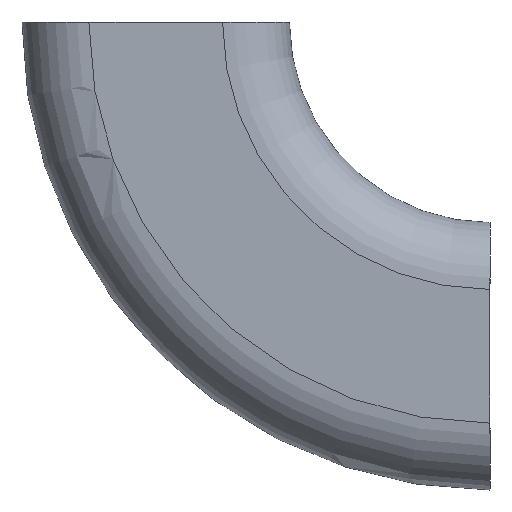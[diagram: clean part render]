
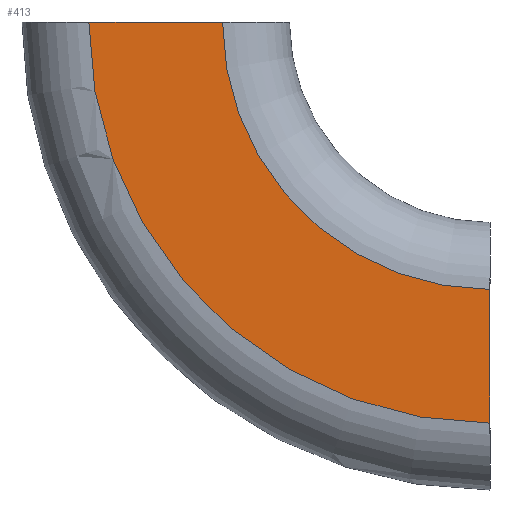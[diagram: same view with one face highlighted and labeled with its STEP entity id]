
A CAD part, left-side view. The second image highlights one B-rep face of the part: STEP entity #413.
In plain terms, the highlighted planar face has unit normal (-1, 0, 0).
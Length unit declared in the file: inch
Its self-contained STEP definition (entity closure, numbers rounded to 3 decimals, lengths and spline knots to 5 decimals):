
#345=CARTESIAN_POINT('',(-0.5,-1.25,-1.5));
#346=VERTEX_POINT('',#345);
#354=CARTESIAN_POINT('',(-0.5,0.25,0.0));
#355=VERTEX_POINT('',#354);
#356=CARTESIAN_POINT('',(-0.5,-1.25,0.0));
#357=DIRECTION('',(-1.0,0.0,0.0));
#358=DIRECTION('',(0.0,1.0,0.0));
#359=AXIS2_PLACEMENT_3D('',#356,#357,#358);
#360=CIRCLE('',#359,1.5);
#361=EDGE_CURVE('',#355,#346,#360,.T.);
#382=CARTESIAN_POINT('',(-0.5,0.,0.0));
#383=DIRECTION('',(-1.0,0.0,0.0));
#384=DIRECTION('',(0.0,0.0,1.0));
#385=AXIS2_PLACEMENT_3D('',#382,#383,#384);
#386=PLANE('',#385);
#387=CARTESIAN_POINT('',(-0.5,-1.25,-1.));
#388=VERTEX_POINT('',#387);
#389=CARTESIAN_POINT('',(-0.5,-1.25,-1.5));
#390=DIRECTION('',(0.0,0.0,1.0));
#391=VECTOR('',#390,0.5);
#392=LINE('',#389,#391);
#393=EDGE_CURVE('',#346,#388,#392,.T.);
#394=ORIENTED_EDGE('',*,*,#393,.T.);
#395=CARTESIAN_POINT('',(-0.5,-0.25,0.0));
#396=VERTEX_POINT('',#395);
#397=CARTESIAN_POINT('',(-0.5,-1.25,0.0));
#398=DIRECTION('',(-1.0,0.0,0.0));
#399=DIRECTION('',(0.0,1.0,0.0));
#400=AXIS2_PLACEMENT_3D('',#397,#398,#399);
#401=CIRCLE('',#400,1.);
#402=EDGE_CURVE('',#396,#388,#401,.T.);
#403=ORIENTED_EDGE('',*,*,#402,.F.);
#404=CARTESIAN_POINT('',(-0.5,0.25,0.0));
#405=DIRECTION('',(0.0,-1.0,0.0));
#406=VECTOR('',#405,0.5);
#407=LINE('',#404,#406);
#408=EDGE_CURVE('',#355,#396,#407,.T.);
#409=ORIENTED_EDGE('',*,*,#408,.F.);
#410=ORIENTED_EDGE('',*,*,#361,.T.);
#411=EDGE_LOOP('',(#394,#403,#409,#410));
#412=FACE_OUTER_BOUND('',#411,.T.);
#413=ADVANCED_FACE('',(#412),#386,.T.);
